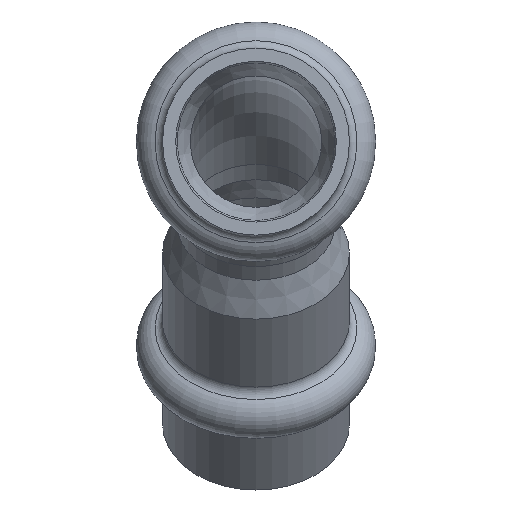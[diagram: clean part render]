
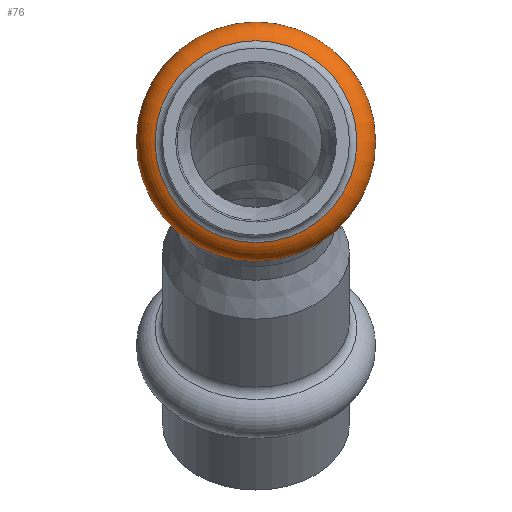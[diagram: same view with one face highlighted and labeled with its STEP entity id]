
A CAD part, front view. The second image highlights one B-rep face of the part: STEP entity #76.
In plain terms, the highlighted toroidal (fillet/blend) face has major radius 8.9 mm and minor radius 2.5 mm.
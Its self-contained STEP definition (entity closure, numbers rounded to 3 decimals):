
#76=ADVANCED_FACE('',(#294,#296),#298,.T.);
#294=FACE_OUTER_BOUND('',#295,.T.);
#295=EDGE_LOOP('',(#450));
#296=FACE_OUTER_BOUND('',#297,.T.);
#297=EDGE_LOOP('',(#451));
#298=TOROIDAL_SURFACE('',#299,8.9,2.5);
#299=AXIS2_PLACEMENT_3D('',#300,#301,#302);
#300=CARTESIAN_POINT('',(0.,10.5,0.));
#301=DIRECTION('',(0.,1.,0.));
#302=DIRECTION('',(0.,0.,1.));
#450=ORIENTED_EDGE('',*,*,#508,.F.);
#451=ORIENTED_EDGE('',*,*,#503,.T.);
#503=EDGE_CURVE('',#571,#571,#572,.T.);
#508=EDGE_CURVE('',#581,#581,#582,.T.);
#571=VERTEX_POINT('',#733);
#572=CIRCLE('',#734,9.614);
#581=VERTEX_POINT('',#758);
#582=CIRCLE('',#759,9.614);
#733=CARTESIAN_POINT('',(0.,8.104,9.614));
#734=AXIS2_PLACEMENT_3D('',#735,#736,#737);
#735=CARTESIAN_POINT('',(0.,8.104,0.));
#736=DIRECTION('',(0.,1.,0.));
#737=DIRECTION('',(0.,0.,1.));
#758=CARTESIAN_POINT('',(0.,12.896,9.614));
#759=AXIS2_PLACEMENT_3D('',#760,#761,#762);
#760=CARTESIAN_POINT('',(0.,12.896,0.));
#761=DIRECTION('',(0.,1.,0.));
#762=DIRECTION('',(0.,0.,1.));
